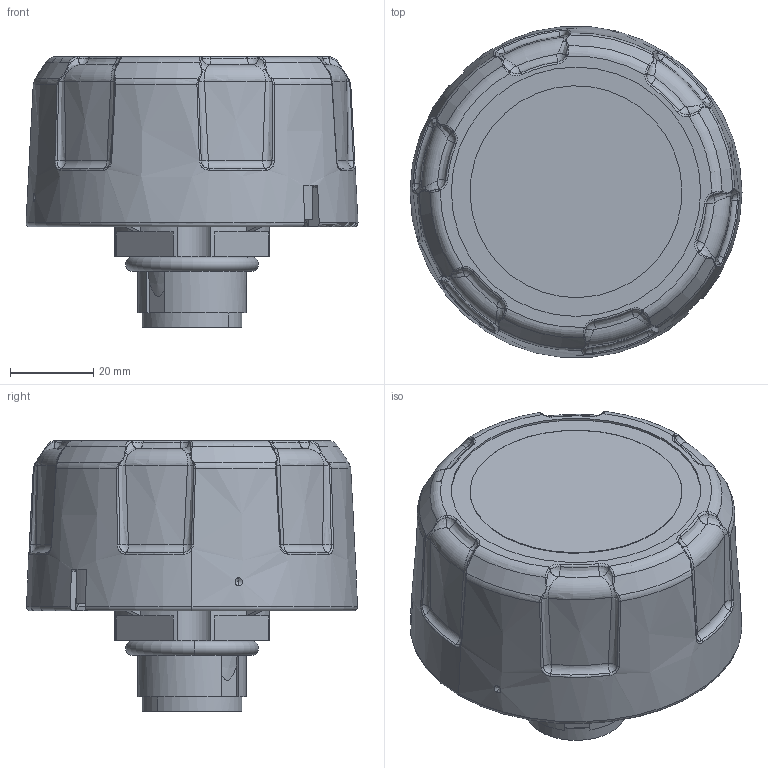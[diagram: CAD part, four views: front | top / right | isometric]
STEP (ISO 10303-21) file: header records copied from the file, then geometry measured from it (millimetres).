
FILE_DESCRIPTION((''),'2;1');
FILE_NAME('30960001_388213','2017-09-26T',('f.kollmann'),(''),'PRO/ENGINEER BY PARAMETRIC TECHNOLOGY CORPORATION, 2015110','PRO/ENGINEER BY PARAMETRIC TECHNOLOGY CORPORATION, 2015110','');
FILE_SCHEMA(('AUTOMOTIVE_DESIGN { 1 0 10303 214 1 1 1 1 }'));
Length unit declared in the file: millimetre
Products named in the file (1): 30960001_388213
Bounding box: 79.89 x 79.62 x 65.2 mm (x, y, z)
Volume: 198853.6 mm3; surface area: 22732 mm2
Topology: 1 solids, 1 shells, 422 faces, 1106 edges, 687 vertices
Faces by surface type: bspline 178, plane 82, cylinder 67, cone 52, torus 31, sphere 12
Entity records: 23457 total; most frequent: CARTESIAN_POINT 10357, ORIENTED_EDGE 2212, DIRECTION 1256, PRESENTATION_STYLE_ASSIGNMENT 1144, STYLED_ITEM 1107, CURVE_STYLE 1106, EDGE_CURVE 1106, VERTEX_POINT 687
